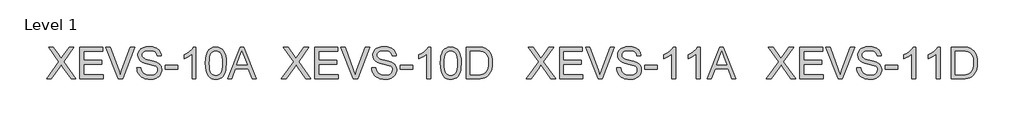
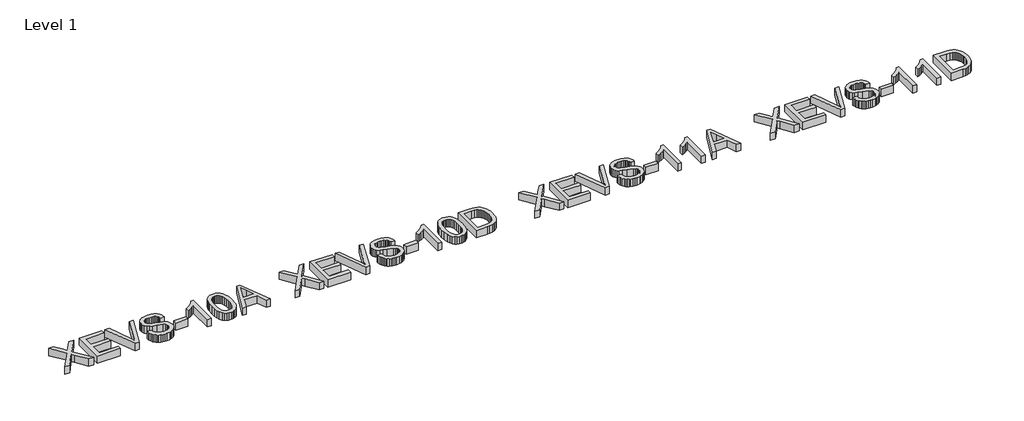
# One storey, incomplete: 4 proxies.
"""IFC4 building model written with IfcOpenShell, lengths in millimetres."""

from ifc_helpers import new_model, si_unit, origin, origin_with_axes, place, context, project, spatial, polyline, outline, extrude, element, save

model = new_model("IFC4")

# Units and contexts
model_context = context("Model", 3, world=origin())
ifc_project = project(units=[si_unit("LENGTHUNIT", "METRE", prefix="MILLI")], contexts=[model_context])

# Site, building, storey
site = spatial("IfcSite", under=ifc_project)
building = spatial("IfcBuilding", under=site)
storey = spatial("IfcBuildingStorey", under=building, Name="Level 1", Elevation=0.0)

# Proxies
placement = place(None, origin())
element("IfcBuildingElementProxy", 1, Name="600mm Arial", ObjectType="600mm Arial", at=placement, inside=storey, context=model_context, shape_type="SweptSolid", body=[
    extrude(outline(polyline([(-8909.8808346, -2254.2839532), (-8677.6737193, -1925.838908), (-8872.2097183, -1651.5460923), (-8782.0050531, -1651.5460923), (-8672.3762186, -1806.0565303), (-8646.1462323, -1845.08881), (-8635.4408662, -1866.2420247), (-8592.1779436, -1804.7321551), (-8483.7263314, -1651.5460923), (-8391.9029854, -1651.5460923), (-8586.5861373, -1926.8689775), (-8354.2318691, -2254.2839532), (-8444.5836871, -2254.2839532), (-8599.5355835, -2036.0563537), (-8631.7620463, -1990.8804447), (-8666.931565, -2040.4709377), (-8818.0574886, -2254.2839532), (-8909.8808346, -2254.2839532)])), origin_with_axes(), (0.0, 0.0, 1.0), 150.0),
    extrude(outline(polyline([(-8278.8896365, -2254.2839532), (-8278.8896365, -1651.5460923), (-7845.671799, -1651.5460923), (-7845.671799, -1726.888325), (-8203.5474039, -1726.888325), (-8203.5474039, -1905.8261274), (-7864.5073571, -1905.8261274), (-7864.5073571, -1981.16836), (-8203.5474039, -1981.16836), (-8203.5474039, -2178.9417206), (-7836.2540199, -2178.9417206), (-7836.2540199, -2254.2839532), (-8278.8896365, -2254.2839532)])), origin_with_axes(), (0.0, 0.0, 1.0), 150.0),
    extrude(outline(polyline([(-7545.3329381, -2254.2839532), (-7785.0448462, -1651.5460923), (-7704.4051128, -1651.5460923), (-7543.8614102, -2085.7939995), (-7511.3406418, -2183.6506102), (-7479.2613318, -2085.7939995), (-7318.2761707, -1651.5460923), (-7237.7835902, -1651.5460923), (-7467.6362608, -2254.2839532), (-7545.3329381, -2254.2839532)])), origin_with_axes(), (0.0, 0.0, 1.0), 150.0),
    extrude(outline(polyline([(-7195.8450427, -2047.0928136), (-7120.5028101, -2047.0928136), (-7111.8575832, -2088.9026023), (-7096.2225984, -2122.5086226), (-7071.8320221, -2149.1800672), (-7036.9200208, -2170.1861292), (-6994.2457094, -2183.8161571), (-6946.5682028, -2188.3594997), (-6904.5928671, -2184.9198031), (-6867.8414558, -2174.6007131), (-6838.0614083, -2158.2667525), (-6817.0001641, -2136.782444), (-6804.4737821, -2112.1159562), (-6800.2983215, -2086.2354579), (-6803.4253185, -2061.0171471), (-6812.8063093, -2039.2201389), (-6831.8625967, -2020.623704), (-6864.0154831, -2005.0071133), (-6973.717894, -1976.2387413), (-7045.7307946, -1957.200848), (-7091.8080145, -1939.0826598), (-7129.3135839, -1913.7355903), (-7155.893058, -1883.0174437), (-7171.7303779, -1847.5904076), (-7177.0094846, -1808.1166695), (-7175.3770082, -1785.6804663), (-7170.4795791, -1763.9892242), (-7162.3171974, -1743.0429431), (-7150.8898629, -1722.841623), (-7136.3263344, -1704.2084), (-7118.7553706, -1687.9664099), (-7098.1769715, -1674.1156528), (-7074.5911371, -1662.6561286), (-7021.5793416, -1647.2602671), (-6962.9021634, -1642.1283133), (-6899.3321546, -1647.4993904), (-6843.7083969, -1663.6126218), (-6819.373003, -1675.6147719), (-6798.0174531, -1690.1369136), (-6779.6417475, -1707.1790471), (-6764.245886, -1726.7411722), (-6751.9494303, -1748.2530718), (-6742.8719421, -1771.144529), (-6737.0134213, -1795.4155436), (-6734.373868, -1821.0661157), (-6809.7161006, -1821.0661157), (-6814.7560839, -1797.0250273), (-6823.5484636, -1776.1109359), (-6836.0932396, -1758.3238415), (-6852.390412, -1743.6637439), (-6872.7434834, -1732.2042198), (-6897.4559564, -1724.0188454), (-6926.5278311, -1719.1076208), (-6959.9591074, -1717.4705459), (-6994.4572415, -1719.0892267), (-7023.9337864, -1723.945269), (-7048.388742, -1732.0386729), (-7067.8221084, -1743.3694383), (-7082.6293587, -1756.9902692), (-7093.2059661, -1771.9538694), (-7099.5519305, -1788.2602388), (-7101.667252, -1805.9093775), (-7100.1681328, -1821.0937069), (-7095.6707754, -1834.8616905), (-7088.1751798, -1847.2133285), (-7077.6813459, -1858.1486208), (-7061.1634443, -1868.504499), (-7035.1541872, -1878.9707418), (-6954.6616067, -1900.2343211), (-6871.5938522, -1920.4310426), (-6821.3411716, -1938.0525902), (-6778.3909487, -1965.3862224), (-6761.7856751, -1981.4534686), (-6748.4269602, -1999.1210014), (-6738.158454, -2018.2968504), (-6730.8238067, -2038.8890451), (-6724.9560889, -2084.3224715), (-6726.6437475, -2107.8899118), (-6731.7067235, -2130.7675734), (-6740.1450168, -2152.9554562), (-6751.9586273, -2174.4535603), (-6766.9406216, -2194.4295526), (-6784.8840659, -2212.0511002), (-6805.7889603, -2227.318203), (-6829.6553047, -2240.230861), (-6855.7887219, -2250.4993672), (-6883.4948347, -2257.8340145), (-6943.6251468, -2263.7017323), (-6982.1653843, -2262.1198397), (-7017.4406692, -2257.374162), (-7049.4510013, -2249.4646991), (-7078.1963807, -2238.3914511), (-7103.8515513, -2224.1360237), (-7126.5912571, -2206.6800231), (-7146.4154981, -2186.023449), (-7163.3242743, -2162.1663017), (-7176.9451052, -2135.8811331), (-7186.9055102, -2107.9404956), (-7193.2054894, -2078.3443891), (-7195.8450427, -2047.0928136)])), origin_with_axes(), (0.0, 0.0, 1.0), 150.0),
    extrude(outline(polyline([(-6659.0316354, -2075.3461508), (-6659.0316354, -2000.0039182), (-6423.5871584, -2000.0039182), (-6423.5871584, -2075.3461508), (-6659.0316354, -2075.3461508)])), origin_with_axes(), (0.0, 0.0, 1.0), 150.0),
    extrude(outline(polyline([(-6075.1293326, -2254.2839532), (-6150.4715652, -2254.2839532), (-6150.4715652, -1784.5722218), (-6181.9254758, -1810.0112618), (-6221.8406723, -1835.4135135), (-6263.7424315, -1857.6151919), (-6301.1560304, -1873.4525118), (-6301.1560304, -1802.2305576), (-6241.9822115, -1770.040883), (-6190.7178555, -1731.7443673), (-6150.3060183, -1691.0198304), (-6123.689756, -1651.5460923), (-6075.1293326, -1651.5460923), (-6075.1293326, -2254.2839532)])), origin_with_axes(), (0.0, 0.0, 1.0), 150.0),
    extrude(outline(polyline([(-5896.1915302, -1957.7710651), (-5890.6549061, -1861.2940119), (-5883.7341261, -1820.3809355), (-5874.045034, -1784.3514926), (-5861.6290167, -1752.9113776), (-5846.5274608, -1725.7662849), (-5828.7403663, -1702.9162145), (-5808.2677333, -1684.3611663), (-5785.0405838, -1670.0045715), (-5758.9899401, -1659.7498608), (-5730.115802, -1653.5970345), (-5698.4181695, -1651.5460923), (-5651.9914618, -1656.4021347), (-5610.4207963, -1670.9702617), (-5575.6559478, -1694.6802563), (-5549.6466907, -1726.9619014), (-5530.0017922, -1767.5392854), (-5514.3300192, -1816.136497), (-5504.0661115, -1877.8487017), (-5500.6448089, -1957.7710651), (-5506.1262507, -2053.6962954), (-5512.9780528, -2094.471416), (-5522.5705759, -2130.4548737), (-5534.8900242, -2161.9087843), (-5549.9226022, -2189.0952637), (-5567.6683099, -2212.014312), (-5588.1271474, -2230.6659292), (-5611.381888, -2245.119093), (-5637.5153052, -2255.4427815), (-5666.5273991, -2261.6369946), (-5698.4181695, -2263.7017323), (-5739.9152586, -2260.1148829), (-5776.7034581, -2249.3543345), (-5808.7827681, -2231.4200872), (-5836.1531885, -2206.3121411), (-5862.419963, -2160.9246999), (-5881.1819448, -2104.3720402), (-5892.4391338, -2036.654162), (-5896.1915302, -1957.7710651)]), holes=[polyline([(-5820.8492975, -1957.6239123), (-5818.6420056, -2023.1207031), (-5812.0201297, -2076.1370971), (-5800.9836698, -2116.6730944), (-5785.532626, -2144.7286951), (-5766.8442207, -2163.8171721), (-5746.0956761, -2177.4517986), (-5723.2869924, -2185.6325744), (-5698.4181695, -2188.3594997), (-5673.5493467, -2185.6233774), (-5650.740663, -2177.4150104), (-5629.9921184, -2163.7343987), (-5611.3037131, -2144.5815423), (-5595.8526693, -2116.4799564), (-5584.8162094, -2075.9531561), (-5578.1943335, -2023.0011414), (-5575.9870416, -1957.6239123), (-5578.1207571, -1893.8607655), (-5584.5219038, -1841.7778721), (-5595.1904817, -1801.3752319), (-5610.1264907, -1772.6528452), (-5628.5021964, -1752.6308676), (-5649.4898642, -1738.329455), (-5673.0894942, -1729.7486075), (-5699.3010863, -1726.888325), (-5724.0411505, -1729.4083166), (-5746.4635581, -1736.9682916), (-5766.5683092, -1749.56825), (-5784.3554036, -1767.2081916), (-5800.3214822, -1798.4781612), (-5811.7258241, -1840.6374379), (-5818.5684292, -1893.6860216), (-5820.8492975, -1957.6239123)])]), origin_with_axes(), (0.0, 0.0, 1.0), 150.0),
    extrude(outline(polyline([(-5476.5117501, -2254.2839532), (-5235.9169252, -1651.5460923), (-5171.7583053, -1651.5460923), (-4931.3106332, -2254.2839532), (-5010.920297, -2254.2839532), (-5079.7878065, -2065.9283717), (-5328.1817296, -2065.9283717), (-5397.0492391, -2254.2839532), (-5476.5117501, -2254.2839532)]), holes=[polyline([(-5300.5170036, -1990.5861391), (-5107.3053797, -1990.5861391), (-5161.751915, -1842.4032714), (-5203.984768, -1726.888325), (-5241.5087315, -1829.4538252), (-5300.5170036, -1990.5861391)])]), origin_with_axes(), (0.0, 0.0, 1.0), 150.0),
])
element("IfcBuildingElementProxy", 2, Name="600mm Arial", ObjectType="600mm Arial", at=placement, inside=storey, context=model_context, shape_type="SweptSolid", body=[
    extrude(outline(polyline([(-4453.4252823, -2254.2839532), (-4221.218167, -1925.838908), (-4415.754166, -1651.5460923), (-4325.5495008, -1651.5460923), (-4215.9206662, -1806.0565303), (-4189.69068, -1845.08881), (-4178.9853139, -1866.2420247), (-4135.7223913, -1804.7321551), (-4027.2707791, -1651.5460923), (-3935.4474331, -1651.5460923), (-4130.130585, -1926.8689775), (-3897.7763168, -2254.2839532), (-3988.1281348, -2254.2839532), (-4143.0800312, -2036.0563537), (-4175.306494, -1990.8804447), (-4210.4760127, -2040.4709377), (-4361.6019363, -2254.2839532), (-4453.4252823, -2254.2839532)])), origin_with_axes(), (0.0, 0.0, 1.0), 150.0),
    extrude(outline(polyline([(-3822.4340842, -2254.2839532), (-3822.4340842, -1651.5460923), (-3389.2162467, -1651.5460923), (-3389.2162467, -1726.888325), (-3747.0918516, -1726.888325), (-3747.0918516, -1905.8261274), (-3408.0518048, -1905.8261274), (-3408.0518048, -1981.16836), (-3747.0918516, -1981.16836), (-3747.0918516, -2178.9417206), (-3379.7984676, -2178.9417206), (-3379.7984676, -2254.2839532), (-3822.4340842, -2254.2839532)])), origin_with_axes(), (0.0, 0.0, 1.0), 150.0),
    extrude(outline(polyline([(-3088.8773858, -2254.2839532), (-3328.5892939, -1651.5460923), (-3247.9495605, -1651.5460923), (-3087.4058578, -2085.7939995), (-3054.8850895, -2183.6506102), (-3022.8057795, -2085.7939995), (-2861.8206184, -1651.5460923), (-2781.3280379, -1651.5460923), (-3011.1807084, -2254.2839532), (-3088.8773858, -2254.2839532)])), origin_with_axes(), (0.0, 0.0, 1.0), 150.0),
    extrude(outline(polyline([(-2739.3894904, -2047.0928136), (-2664.0472578, -2047.0928136), (-2655.4020309, -2088.9026023), (-2639.7670461, -2122.5086226), (-2615.3764698, -2149.1800672), (-2580.4644685, -2170.1861292), (-2537.7901571, -2183.8161571), (-2490.1126505, -2188.3594997), (-2448.1373148, -2184.9198031), (-2411.3859035, -2174.6007131), (-2381.605856, -2158.2667525), (-2360.5446118, -2136.782444), (-2348.0182298, -2112.1159562), (-2343.8427692, -2086.2354579), (-2346.9697662, -2061.0171471), (-2356.350757, -2039.2201389), (-2375.4070444, -2020.623704), (-2407.5599308, -2005.0071133), (-2517.2623417, -1976.2387413), (-2589.2752423, -1957.200848), (-2635.3524622, -1939.0826598), (-2672.8580316, -1913.7355903), (-2699.4375057, -1883.0174437), (-2715.2748256, -1847.5904076), (-2720.5539323, -1808.1166695), (-2718.9214559, -1785.6804663), (-2714.0240268, -1763.9892242), (-2705.8616451, -1743.0429431), (-2694.4343106, -1722.841623), (-2679.8707821, -1704.2084), (-2662.2998183, -1687.9664099), (-2641.7214192, -1674.1156528), (-2618.1355848, -1662.6561286), (-2565.1237893, -1647.2602671), (-2506.4466111, -1642.1283133), (-2442.8766023, -1647.4993904), (-2387.2528446, -1663.6126218), (-2362.9174506, -1675.6147719), (-2341.5619008, -1690.1369136), (-2323.1861952, -1707.1790471), (-2307.7903337, -1726.7411722), (-2295.493878, -1748.2530718), (-2286.4163897, -1771.144529), (-2280.557869, -1795.4155436), (-2277.9183157, -1821.0661157), (-2353.2605483, -1821.0661157), (-2358.3005316, -1797.0250273), (-2367.0929113, -1776.1109359), (-2379.6376873, -1758.3238415), (-2395.9348597, -1743.6637439), (-2416.2879311, -1732.2042198), (-2441.0004041, -1724.0188454), (-2470.0722788, -1719.1076208), (-2503.5035551, -1717.4705459), (-2538.0016892, -1719.0892267), (-2567.4782341, -1723.945269), (-2591.9331897, -1732.0386729), (-2611.3665561, -1743.3694383), (-2626.1738064, -1756.9902692), (-2636.7504138, -1771.9538694), (-2643.0963782, -1788.2602388), (-2645.2116996, -1805.9093775), (-2643.7125805, -1821.0937069), (-2639.2152231, -1834.8616905), (-2631.7196275, -1847.2133285), (-2621.2257936, -1858.1486208), (-2604.707892, -1868.504499), (-2578.6986349, -1878.9707418), (-2498.2060544, -1900.2343211), (-2415.1382999, -1920.4310426), (-2364.8856193, -1938.0525902), (-2321.9353964, -1965.3862224), (-2305.3301228, -1981.4534686), (-2291.9714079, -1999.1210014), (-2281.7029017, -2018.2968504), (-2274.3682544, -2038.8890451), (-2268.5005366, -2084.3224715), (-2270.1881952, -2107.8899118), (-2275.2511712, -2130.7675734), (-2283.6894645, -2152.9554562), (-2295.503075, -2174.4535603), (-2310.4850693, -2194.4295526), (-2328.4285136, -2212.0511002), (-2349.333408, -2227.318203), (-2373.1997524, -2240.230861), (-2399.3331696, -2250.4993672), (-2427.0392824, -2257.8340145), (-2487.1695945, -2263.7017323), (-2525.709832, -2262.1198397), (-2560.9851168, -2257.374162), (-2592.995449, -2249.4646991), (-2621.7408284, -2238.3914511), (-2647.395999, -2224.1360237), (-2670.1357048, -2206.6800231), (-2689.9599458, -2186.023449), (-2706.868722, -2162.1663017), (-2720.4895529, -2135.8811331), (-2730.4499579, -2107.9404956), (-2736.7499371, -2078.3443891), (-2739.3894904, -2047.0928136)])), origin_with_axes(), (0.0, 0.0, 1.0), 150.0),
    extrude(outline(polyline([(-2202.576083, -2075.3461508), (-2202.576083, -2000.0039182), (-1967.1316061, -2000.0039182), (-1967.1316061, -2075.3461508), (-2202.576083, -2075.3461508)])), origin_with_axes(), (0.0, 0.0, 1.0), 150.0),
    extrude(outline(polyline([(-1618.6737803, -2254.2839532), (-1694.0160129, -2254.2839532), (-1694.0160129, -1784.5722218), (-1725.4699235, -1810.0112618), (-1765.38512, -1835.4135135), (-1807.2868792, -1857.6151919), (-1844.7004781, -1873.4525118), (-1844.7004781, -1802.2305576), (-1785.5266592, -1770.040883), (-1734.2623032, -1731.7443673), (-1693.850466, -1691.0198304), (-1667.2342037, -1651.5460923), (-1618.6737803, -1651.5460923), (-1618.6737803, -2254.2839532)])), origin_with_axes(), (0.0, 0.0, 1.0), 150.0),
    extrude(outline(polyline([(-1439.7359778, -1957.7710651), (-1434.1993538, -1861.2940119), (-1427.2785738, -1820.3809355), (-1417.5894817, -1784.3514926), (-1405.1734644, -1752.9113776), (-1390.0719085, -1725.7662849), (-1372.284814, -1702.9162145), (-1351.812181, -1684.3611663), (-1328.5850315, -1670.0045715), (-1302.5343877, -1659.7498608), (-1273.6602496, -1653.5970345), (-1241.9626172, -1651.5460923), (-1195.5359094, -1656.4021347), (-1153.965244, -1670.9702617), (-1119.2003954, -1694.6802563), (-1093.1911384, -1726.9619014), (-1073.5462398, -1767.5392854), (-1057.8744669, -1816.136497), (-1047.6105592, -1877.8487017), (-1044.1892566, -1957.7710651), (-1049.6706984, -2053.6962954), (-1056.5225005, -2094.471416), (-1066.1150235, -2130.4548737), (-1078.4344719, -2161.9087843), (-1093.4670499, -2189.0952637), (-1111.2127576, -2212.014312), (-1131.6715951, -2230.6659292), (-1154.9263357, -2245.119093), (-1181.0597529, -2255.4427815), (-1210.0718468, -2261.6369946), (-1241.9626172, -2263.7017323), (-1283.4597063, -2260.1148829), (-1320.2479058, -2249.3543345), (-1352.3272158, -2231.4200872), (-1379.6976362, -2206.3121411), (-1405.9644107, -2160.9246999), (-1424.7263924, -2104.3720402), (-1435.9835815, -2036.654162), (-1439.7359778, -1957.7710651)]), holes=[polyline([(-1364.3937452, -1957.6239123), (-1362.1864533, -2023.1207031), (-1355.5645774, -2076.1370971), (-1344.5281175, -2116.6730944), (-1329.0770737, -2144.7286951), (-1310.3886683, -2163.8171721), (-1289.6401238, -2177.4517986), (-1266.8314401, -2185.6325744), (-1241.9626172, -2188.3594997), (-1217.0937944, -2185.6233774), (-1194.2851107, -2177.4150104), (-1173.5365661, -2163.7343987), (-1154.8481608, -2144.5815423), (-1139.397117, -2116.4799564), (-1128.3606571, -2075.9531561), (-1121.7387812, -2023.0011414), (-1119.5314892, -1957.6239123), (-1121.6652048, -1893.8607655), (-1128.0663515, -1841.7778721), (-1138.7349294, -1801.3752319), (-1153.6709384, -1772.6528452), (-1172.0466441, -1752.6308676), (-1193.0343119, -1738.329455), (-1216.6339419, -1729.7486075), (-1242.845534, -1726.888325), (-1267.5855982, -1729.4083166), (-1290.0080058, -1736.9682916), (-1310.1127568, -1749.56825), (-1327.8998513, -1767.2081916), (-1343.8659299, -1798.4781612), (-1355.2702718, -1840.6374379), (-1362.1128769, -1893.6860216), (-1364.3937452, -1957.6239123)])]), origin_with_axes(), (0.0, 0.0, 1.0), 150.0),
    extrude(outline(polyline([(-950.0114659, -2254.2839532), (-950.0114659, -1651.5460923), (-742.0845622, -1651.5460923), (-679.9492932, -1653.7165961), (-634.5158668, -1660.2281074), (-586.4704782, -1676.9667382), (-545.9298824, -1703.3438773), (-523.5902482, -1724.9017622), (-504.2488523, -1749.2555503), (-487.9056947, -1776.4052415), (-474.5607753, -1806.3508359), (-464.1957001, -1838.816422), (-456.7920749, -1873.5260882), (-450.8691748, -1949.6776612), (-454.8790886, -2014.3697101), (-466.9088298, -2071.2994488), (-485.2293532, -2119.7679017), (-508.1116133, -2159.0760929), (-534.4519641, -2190.1069392), (-563.1467597, -2213.7433574), (-596.0905924, -2231.2729344), (-635.1780544, -2243.9832574), (-680.4827221, -2251.7087793), (-732.0781719, -2254.2839532), (-950.0114659, -2254.2839532)]), holes=[polyline([(-874.6692333, -2178.9417206), (-741.3487982, -2178.9417206), (-686.2032871, -2176.2193939), (-644.3751043, -2168.0524136), (-612.8108291, -2154.9190264), (-588.457041, -2137.2974788), (-562.2822371, -2104.6847399), (-542.6189444, -2062.470281), (-530.3132917, -2010.4701609), (-526.2114074, -1948.5004389), (-528.2209628, -1904.7592696), (-534.249629, -1866.3891775), (-544.297406, -1833.3901626), (-558.3642938, -1805.7622247), (-575.3098582, -1782.8799646), (-593.993665, -1764.1179829), (-614.4157143, -1749.4762795), (-636.576006, -1738.9548544), (-679.912505, -1729.9049573), (-743.4089374, -1726.888325), (-874.6692333, -1726.888325), (-874.6692333, -2178.9417206)])]), origin_with_axes(), (0.0, 0.0, 1.0), 150.0),
])
element("IfcBuildingElementProxy", 3, Name="600mm Arial", ObjectType="600mm Arial", at=placement, inside=storey, context=model_context, shape_type="SweptSolid", body=[
    extrude(outline(polyline([(190.1191654, -2254.2839532), (422.3262807, -1925.838908), (227.7902817, -1651.5460923), (317.9949469, -1651.5460923), (427.6237814, -1806.0565303), (453.8537677, -1845.08881), (464.5591338, -1866.2420247), (507.8220564, -1804.7321551), (616.2736686, -1651.5460923), (708.0970146, -1651.5460923), (513.4138627, -1926.8689775), (745.7681309, -2254.2839532), (655.4163129, -2254.2839532), (500.4644165, -2036.0563537), (468.2379537, -1990.8804447), (433.068435, -2040.4709377), (281.9425114, -2254.2839532), (190.1191654, -2254.2839532)])), origin_with_axes(), (0.0, 0.0, 1.0), 150.0),
    extrude(outline(polyline([(821.1103635, -2254.2839532), (821.1103635, -1651.5460923), (1254.328201, -1651.5460923), (1254.328201, -1726.888325), (896.4525961, -1726.888325), (896.4525961, -1905.8261274), (1235.4926429, -1905.8261274), (1235.4926429, -1981.16836), (896.4525961, -1981.16836), (896.4525961, -2178.9417206), (1263.7459801, -2178.9417206), (1263.7459801, -2254.2839532), (821.1103635, -2254.2839532)])), origin_with_axes(), (0.0, 0.0, 1.0), 150.0),
    extrude(outline(polyline([(1554.6670619, -2254.2839532), (1314.9551538, -1651.5460923), (1395.5948872, -1651.5460923), (1556.1385898, -2085.7939995), (1588.6593582, -2183.6506102), (1620.7386682, -2085.7939995), (1781.7238293, -1651.5460923), (1862.2164098, -1651.5460923), (1632.3637392, -2254.2839532), (1554.6670619, -2254.2839532)])), origin_with_axes(), (0.0, 0.0, 1.0), 150.0),
    extrude(outline(polyline([(1904.1549573, -2047.0928136), (1979.4971899, -2047.0928136), (1988.1424168, -2088.9026023), (2003.7774016, -2122.5086226), (2028.1679779, -2149.1800672), (2063.0799792, -2170.1861292), (2105.7542906, -2183.8161571), (2153.4317972, -2188.3594997), (2195.4071329, -2184.9198031), (2232.1585442, -2174.6007131), (2261.9385917, -2158.2667525), (2282.9998359, -2136.782444), (2295.5262179, -2112.1159562), (2299.7016785, -2086.2354579), (2296.5746815, -2061.0171471), (2287.1936907, -2039.2201389), (2268.1374033, -2020.623704), (2235.9845169, -2005.0071133), (2126.282106, -1976.2387413), (2054.2692054, -1957.200848), (2008.1919855, -1939.0826598), (1970.6864161, -1913.7355903), (1944.106942, -1883.0174437), (1928.2696221, -1847.5904076), (1922.9905154, -1808.1166695), (1924.6229918, -1785.6804663), (1929.5204209, -1763.9892242), (1937.6828026, -1743.0429431), (1949.1101371, -1722.841623), (1963.6736656, -1704.2084), (1981.2446294, -1687.9664099), (2001.8230285, -1674.1156528), (2025.4088629, -1662.6561286), (2078.4206584, -1647.2602671), (2137.0978366, -1642.1283133), (2200.6678454, -1647.4993904), (2256.2916031, -1663.6126218), (2280.626997, -1675.6147719), (2301.9825469, -1690.1369136), (2320.3582525, -1707.1790471), (2335.754114, -1726.7411722), (2348.0505697, -1748.2530718), (2357.1280579, -1771.144529), (2362.9865787, -1795.4155436), (2365.626132, -1821.0661157), (2290.2838994, -1821.0661157), (2285.2439161, -1797.0250273), (2276.4515364, -1776.1109359), (2263.9067604, -1758.3238415), (2247.609588, -1743.6637439), (2227.2565166, -1732.2042198), (2202.5440436, -1724.0188454), (2173.4721689, -1719.1076208), (2140.0408926, -1717.4705459), (2105.5427585, -1719.0892267), (2076.0662136, -1723.945269), (2051.611258, -1732.0386729), (2032.1778916, -1743.3694383), (2017.3706413, -1756.9902692), (2006.7940339, -1771.9538694), (2000.4480695, -1788.2602388), (1998.332748, -1805.9093775), (1999.8318672, -1821.0937069), (2004.3292246, -1834.8616905), (2011.8248202, -1847.2133285), (2022.3186541, -1858.1486208), (2038.8365557, -1868.504499), (2064.8458128, -1878.9707418), (2145.3383933, -1900.2343211), (2228.4061478, -1920.4310426), (2278.6588284, -1938.0525902), (2321.6090513, -1965.3862224), (2338.2143249, -1981.4534686), (2351.5730398, -1999.1210014), (2361.841546, -2018.2968504), (2369.1761933, -2038.8890451), (2375.0439111, -2084.3224715), (2373.3562525, -2107.8899118), (2368.2932765, -2130.7675734), (2359.8549832, -2152.9554562), (2348.0413727, -2174.4535603), (2333.0593784, -2194.4295526), (2315.1159341, -2212.0511002), (2294.2110397, -2227.318203), (2270.3446953, -2240.230861), (2244.2112781, -2250.4993672), (2216.5051653, -2257.8340145), (2156.3748532, -2263.7017323), (2117.8346157, -2262.1198397), (2082.5593308, -2257.374162), (2050.5489987, -2249.4646991), (2021.8036193, -2238.3914511), (1996.1484487, -2224.1360237), (1973.4087429, -2206.6800231), (1953.5845019, -2186.023449), (1936.6757257, -2162.1663017), (1923.0548948, -2135.8811331), (1913.0944898, -2107.9404956), (1906.7945106, -2078.3443891), (1904.1549573, -2047.0928136)])), origin_with_axes(), (0.0, 0.0, 1.0), 150.0),
    extrude(outline(polyline([(2440.9683646, -2075.3461508), (2440.9683646, -2000.0039182), (2676.4128416, -2000.0039182), (2676.4128416, -2075.3461508), (2440.9683646, -2075.3461508)])), origin_with_axes(), (0.0, 0.0, 1.0), 150.0),
    extrude(outline(polyline([(3024.8706674, -2254.2839532), (2949.5284348, -2254.2839532), (2949.5284348, -1784.5722218), (2918.0745242, -1810.0112618), (2878.1593277, -1835.4135135), (2836.2575685, -1857.6151919), (2798.8439696, -1873.4525118), (2798.8439696, -1802.2305576), (2858.0177885, -1770.040883), (2909.2821445, -1731.7443673), (2949.6939817, -1691.0198304), (2976.310244, -1651.5460923), (3024.8706674, -1651.5460923), (3024.8706674, -2254.2839532)])), origin_with_axes(), (0.0, 0.0, 1.0), 150.0),
    extrude(outline(polyline([(3486.3418421, -2254.2839532), (3410.9996095, -2254.2839532), (3410.9996095, -1784.5722218), (3379.5456989, -1810.0112618), (3339.6305025, -1835.4135135), (3297.7287432, -1857.6151919), (3260.3151443, -1873.4525118), (3260.3151443, -1802.2305576), (3319.4889632, -1770.040883), (3370.7533193, -1731.7443673), (3411.1651564, -1691.0198304), (3437.7814188, -1651.5460923), (3486.3418421, -1651.5460923), (3486.3418421, -2254.2839532)])), origin_with_axes(), (0.0, 0.0, 1.0), 150.0),
    extrude(outline(polyline([(3623.4882499, -2254.2839532), (3864.0830748, -1651.5460923), (3928.2416947, -1651.5460923), (4168.6893668, -2254.2839532), (4089.079703, -2254.2839532), (4020.2121935, -2065.9283717), (3771.8182704, -2065.9283717), (3702.9507609, -2254.2839532), (3623.4882499, -2254.2839532)]), holes=[polyline([(3799.4829964, -1990.5861391), (3992.6946203, -1990.5861391), (3938.248085, -1842.4032714), (3896.015232, -1726.888325), (3858.4912685, -1829.4538252), (3799.4829964, -1990.5861391)])]), origin_with_axes(), (0.0, 0.0, 1.0), 150.0),
])
element("IfcBuildingElementProxy", 4, Name="600mm Arial", ObjectType="600mm Arial", at=placement, inside=storey, context=model_context, shape_type="SweptSolid", body=[
    extrude(outline(polyline([(4746.5747177, -2254.2839532), (4978.781833, -1925.838908), (4784.245834, -1651.5460923), (4874.4504992, -1651.5460923), (4984.0793338, -1806.0565303), (5010.30932, -1845.08881), (5021.0146861, -1866.2420247), (5064.2776087, -1804.7321551), (5172.7292209, -1651.5460923), (5264.5525669, -1651.5460923), (5069.869415, -1926.8689775), (5302.2236832, -2254.2839532), (5211.8718652, -2254.2839532), (5056.9199688, -2036.0563537), (5024.693506, -1990.8804447), (4989.5239873, -2040.4709377), (4838.3980637, -2254.2839532), (4746.5747177, -2254.2839532)])), origin_with_axes(), (0.0, 0.0, 1.0), 150.0),
    extrude(outline(polyline([(5377.5659158, -2254.2839532), (5377.5659158, -1651.5460923), (5810.7837533, -1651.5460923), (5810.7837533, -1726.888325), (5452.9081484, -1726.888325), (5452.9081484, -1905.8261274), (5791.9481952, -1905.8261274), (5791.9481952, -1981.16836), (5452.9081484, -1981.16836), (5452.9081484, -2178.9417206), (5820.2015324, -2178.9417206), (5820.2015324, -2254.2839532), (5377.5659158, -2254.2839532)])), origin_with_axes(), (0.0, 0.0, 1.0), 150.0),
    extrude(outline(polyline([(6111.1226142, -2254.2839532), (5871.4107061, -1651.5460923), (5952.0504395, -1651.5460923), (6112.5941422, -2085.7939995), (6145.1149105, -2183.6506102), (6177.1942205, -2085.7939995), (6338.1793816, -1651.5460923), (6418.6719621, -1651.5460923), (6188.8192916, -2254.2839532), (6111.1226142, -2254.2839532)])), origin_with_axes(), (0.0, 0.0, 1.0), 150.0),
    extrude(outline(polyline([(6460.6105096, -2047.0928136), (6535.9527422, -2047.0928136), (6544.5979691, -2088.9026023), (6560.2329539, -2122.5086226), (6584.6235302, -2149.1800672), (6619.5355315, -2170.1861292), (6662.2098429, -2183.8161571), (6709.8873495, -2188.3594997), (6751.8626852, -2184.9198031), (6788.6140965, -2174.6007131), (6818.394144, -2158.2667525), (6839.4553882, -2136.782444), (6851.9817702, -2112.1159562), (6856.1572308, -2086.2354579), (6853.0302338, -2061.0171471), (6843.649243, -2039.2201389), (6824.5929556, -2020.623704), (6792.4400692, -2005.0071133), (6682.7376583, -1976.2387413), (6610.7247577, -1957.200848), (6564.6475378, -1939.0826598), (6527.1419684, -1913.7355903), (6500.5624943, -1883.0174437), (6484.7251744, -1847.5904076), (6479.4460677, -1808.1166695), (6481.0785441, -1785.6804663), (6485.9759732, -1763.9892242), (6494.1383549, -1743.0429431), (6505.5656894, -1722.841623), (6520.1292179, -1704.2084), (6537.7001817, -1687.9664099), (6558.2785808, -1674.1156528), (6581.8644152, -1662.6561286), (6634.8762107, -1647.2602671), (6693.5533889, -1642.1283133), (6757.1233977, -1647.4993904), (6812.7471554, -1663.6126218), (6837.0825494, -1675.6147719), (6858.4380992, -1690.1369136), (6876.8138048, -1707.1790471), (6892.2096663, -1726.7411722), (6904.506122, -1748.2530718), (6913.5836103, -1771.144529), (6919.442131, -1795.4155436), (6922.0816843, -1821.0661157), (6846.7394517, -1821.0661157), (6841.6994684, -1797.0250273), (6832.9070887, -1776.1109359), (6820.3623127, -1758.3238415), (6804.0651403, -1743.6637439), (6783.7120689, -1732.2042198), (6758.9995959, -1724.0188454), (6729.9277212, -1719.1076208), (6696.4964449, -1717.4705459), (6661.9983108, -1719.0892267), (6632.5217659, -1723.945269), (6608.0668103, -1732.0386729), (6588.6334439, -1743.3694383), (6573.8261936, -1756.9902692), (6563.2495862, -1771.9538694), (6556.9036218, -1788.2602388), (6554.7883004, -1805.9093775), (6556.2874195, -1821.0937069), (6560.7847769, -1834.8616905), (6568.2803725, -1847.2133285), (6578.7742064, -1858.1486208), (6595.292108, -1868.504499), (6621.3013651, -1878.9707418), (6701.7939456, -1900.2343211), (6784.8617001, -1920.4310426), (6835.1143807, -1938.0525902), (6878.0646036, -1965.3862224), (6894.6698772, -1981.4534686), (6908.0285921, -1999.1210014), (6918.2970983, -2018.2968504), (6925.6317456, -2038.8890451), (6931.4994634, -2084.3224715), (6929.8118048, -2107.8899118), (6924.7488288, -2130.7675734), (6916.3105355, -2152.9554562), (6904.496925, -2174.4535603), (6889.5149307, -2194.4295526), (6871.5714864, -2212.0511002), (6850.666592, -2227.318203), (6826.8002476, -2240.230861), (6800.6668304, -2250.4993672), (6772.9607176, -2257.8340145), (6712.8304055, -2263.7017323), (6674.290168, -2262.1198397), (6639.0148832, -2257.374162), (6607.004551, -2249.4646991), (6578.2591716, -2238.3914511), (6552.604001, -2224.1360237), (6529.8642952, -2206.6800231), (6510.0400542, -2186.023449), (6493.131278, -2162.1663017), (6479.5104471, -2135.8811331), (6469.5500421, -2107.9404956), (6463.2500629, -2078.3443891), (6460.6105096, -2047.0928136)])), origin_with_axes(), (0.0, 0.0, 1.0), 150.0),
    extrude(outline(polyline([(6997.423917, -2075.3461508), (6997.423917, -2000.0039182), (7232.8683939, -2000.0039182), (7232.8683939, -2075.3461508), (6997.423917, -2075.3461508)])), origin_with_axes(), (0.0, 0.0, 1.0), 150.0),
    extrude(outline(polyline([(7581.3262197, -2254.2839532), (7505.9839871, -2254.2839532), (7505.9839871, -1784.5722218), (7474.5300765, -1810.0112618), (7434.61488, -1835.4135135), (7392.7131208, -1857.6151919), (7355.2995219, -1873.4525118), (7355.2995219, -1802.2305576), (7414.4733408, -1770.040883), (7465.7376968, -1731.7443673), (7506.149534, -1691.0198304), (7532.7657963, -1651.5460923), (7581.3262197, -1651.5460923), (7581.3262197, -2254.2839532)])), origin_with_axes(), (0.0, 0.0, 1.0), 150.0),
    extrude(outline(polyline([(8042.7973944, -2254.2839532), (7967.4551618, -2254.2839532), (7967.4551618, -1784.5722218), (7936.0012512, -1810.0112618), (7896.0860548, -1835.4135135), (7854.1842955, -1857.6151919), (7816.7706966, -1873.4525118), (7816.7706966, -1802.2305576), (7875.9445155, -1770.040883), (7927.2088716, -1731.7443673), (7967.6207087, -1691.0198304), (7994.2369711, -1651.5460923), (8042.7973944, -1651.5460923), (8042.7973944, -2254.2839532)])), origin_with_axes(), (0.0, 0.0, 1.0), 150.0),
    extrude(outline(polyline([(8249.9885341, -2254.2839532), (8249.9885341, -1651.5460923), (8457.9154378, -1651.5460923), (8520.0507068, -1653.7165961), (8565.4841332, -1660.2281074), (8613.5295218, -1676.9667382), (8654.0701176, -1703.3438773), (8676.4097518, -1724.9017622), (8695.7511477, -1749.2555503), (8712.0943053, -1776.4052415), (8725.4392247, -1806.3508359), (8735.8042999, -1838.816422), (8743.2079251, -1873.5260882), (8749.1308252, -1949.6776612), (8745.1209114, -2014.3697101), (8733.0911702, -2071.2994488), (8714.7706468, -2119.7679017), (8691.8883867, -2159.0760929), (8665.5480359, -2190.1069392), (8636.8532403, -2213.7433574), (8603.9094076, -2231.2729344), (8564.8219456, -2243.9832574), (8519.5172779, -2251.7087793), (8467.9218281, -2254.2839532), (8249.9885341, -2254.2839532)]), holes=[polyline([(8325.3307667, -2178.9417206), (8458.6512018, -2178.9417206), (8513.7967129, -2176.2193939), (8555.6248957, -2168.0524136), (8587.1891709, -2154.9190264), (8611.542959, -2137.2974788), (8637.7177629, -2104.6847399), (8657.3810556, -2062.470281), (8669.6867083, -2010.4701609), (8673.7885926, -1948.5004389), (8671.7790372, -1904.7592696), (8665.750371, -1866.3891775), (8655.702594, -1833.3901626), (8641.6357062, -1805.7622247), (8624.6901418, -1782.8799646), (8606.006335, -1764.1179829), (8585.5842857, -1749.4762795), (8563.423994, -1738.9548544), (8520.087495, -1729.9049573), (8456.5910626, -1726.888325), (8325.3307667, -1726.888325), (8325.3307667, -2178.9417206)])]), origin_with_axes(), (0.0, 0.0, 1.0), 150.0),
])

save(model, "model.ifc")
